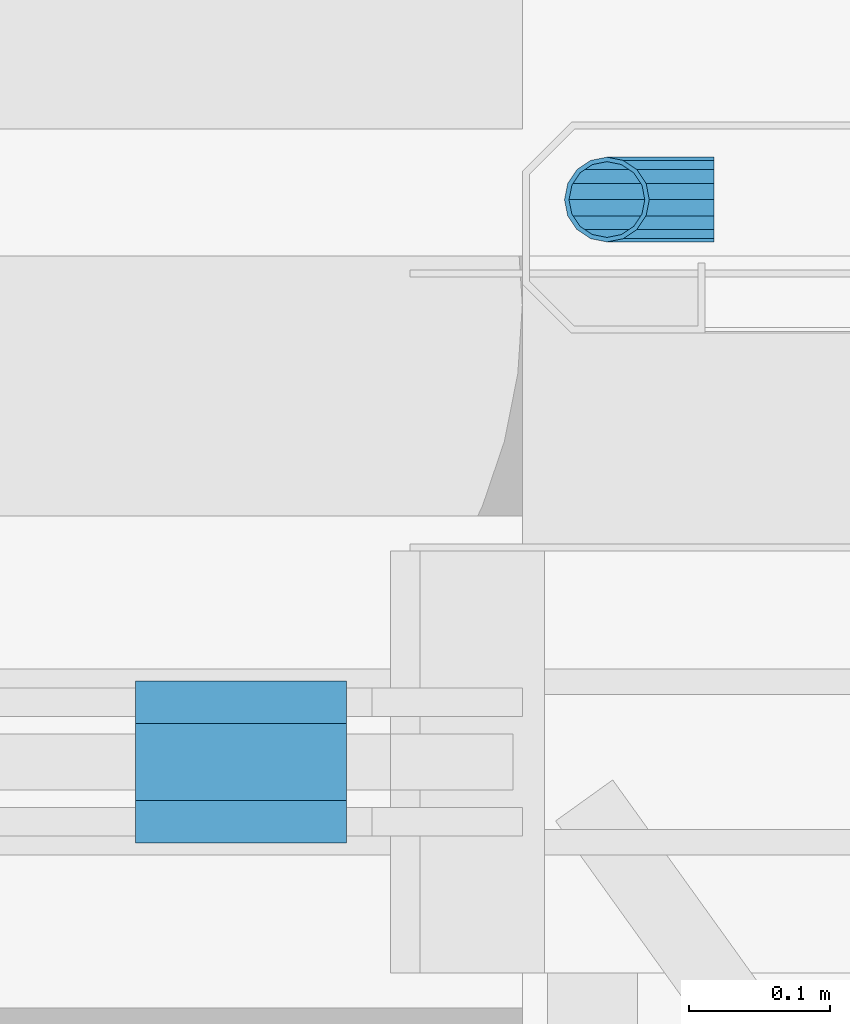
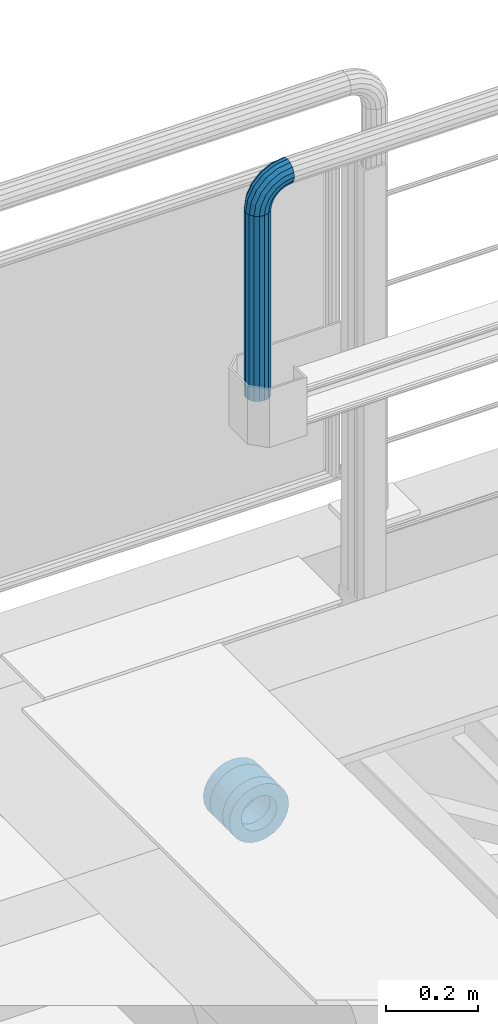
# One storey, part 23 of 31: 5 beams.
"""IFC2X3 building model written with IfcOpenShell, lengths in millimetres."""

from ifc_helpers import new_model, si_unit, frame, origin_with_axes, place, context, subcontext, project, spatial, faceted_brep, material, type_object, element, save


model = new_model("IFC2X3")

# Units and contexts
model_context = context("Model", 3, precision=1e-05, world=origin_with_axes())
body_context = subcontext(model_context, "Body", "Model", "MODEL_VIEW")
ifc_project = project(units=[si_unit("LENGTHUNIT", "METRE", prefix="MILLI"), si_unit("AREAUNIT", "SQUARE_METRE"), si_unit("VOLUMEUNIT", "CUBIC_METRE"), si_unit("MASSUNIT", "GRAM", prefix="KILO"), si_unit("TIMEUNIT", "SECOND"), si_unit("PLANEANGLEUNIT", "RADIAN"), si_unit("SOLIDANGLEUNIT", "STERADIAN"), si_unit("THERMODYNAMICTEMPERATUREUNIT", "DEGREE_CELSIUS"), si_unit("LUMINOUSINTENSITYUNIT", "LUMEN")], contexts=[model_context])

# Site, building, storey
site_placement = place(None, origin_with_axes())
site = spatial("IfcSite", under=ifc_project, at=site_placement, Name="Undefined", CompositionType="ELEMENT")
building_placement = place(site_placement, origin_with_axes())
building = spatial("IfcBuilding", under=site, at=building_placement, Name="Undefined", CompositionType="ELEMENT")
storey_placement = place(building_placement, origin_with_axes())
storey = spatial("IfcBuildingStorey", under=building, at=storey_placement, Name="Undefined", CompositionType="ELEMENT", Elevation=0.0)

# Beams
ifc_material = material(Name="STEEL/S355J2+N")
beam_type_1 = type_object("IfcBeamType", Name="CFCHS60.3*3.2", PredefinedType="NOTDEFINED")
beam_1_placement = place(storey_placement, frame((3160.15, 2700.0, 1093.85), z_axis=(0.0, -1.0, 0.0), x_axis=(0.0, 0.0, -1.0)))
element("IfcBeam", 1, at=beam_1_placement, inside=storey, type_object=beam_type_1, material=ifc_material, Name="REKKVERK", context=body_context, shape_type="Brep", body=[
    faceted_brep([(0.0, -26.95, 0.0), (0.0, -24.898553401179, 10.3133185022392), (493.85, -24.8985534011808, 10.3133185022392), (493.85, -26.9500000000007, 0.0), (0.0, -19.0565277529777, 19.0565277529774), (493.85, -19.0565277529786, 19.0565277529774), (0.0, -10.3133185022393, 24.8985534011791), (493.85, -10.313318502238, 24.8985534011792), (0.0, 0.0, 26.95), (493.85, 0.0, 26.95), (0.0, 10.3133185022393, 24.8985534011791), (493.85, 10.313318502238, 24.8985534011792), (0.0, 19.0565277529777, 19.0565277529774), (493.85, 19.0565277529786, 19.0565277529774), (0.0, 24.898553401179, 10.3133185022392), (493.85, 24.8985534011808, 10.3133185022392), (0.0, 26.95, 0.0), (493.85, 26.9500000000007, 0.0), (0.0, 24.898553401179, -10.3133185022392), (493.85, 24.8985534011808, -10.3133185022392), (0.0, 19.0565277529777, -19.0565277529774), (493.85, 19.0565277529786, -19.0565277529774), (0.0, 10.3133185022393, -24.8985534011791), (493.85, 10.313318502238, -24.8985534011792), (0.0, 0.0, -26.95), (493.85, 0.0, -26.95), (0.0, -10.3133185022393, -24.8985534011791), (493.85, -10.313318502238, -24.8985534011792), (0.0, -19.0565277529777, -19.0565277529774), (493.85, -19.0565277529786, -19.0565277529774), (0.0, -24.898553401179, -10.3133185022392), (493.85, -24.8985534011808, -10.3133185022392), (0.0, -30.15, 0.0), (0.0, -27.8549679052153, -11.5379054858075), (493.85, -27.8549679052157, -11.5379054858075), (493.85, -30.1500000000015, 0.0), (0.0, -21.3192694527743, -21.3192694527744), (493.85, -21.3192694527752, -21.3192694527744), (0.0, -11.5379054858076, -27.8549679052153), (493.85, -11.5379054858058, -27.8549679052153), (0.0, 0.0, -30.15), (493.85, 0.0, -30.15), (0.0, 11.5379054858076, -27.8549679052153), (493.85, 11.5379054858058, -27.8549679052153), (0.0, 21.3192694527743, -21.3192694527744), (493.85, 21.3192694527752, -21.3192694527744), (0.0, 27.8549679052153, -11.5379054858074), (493.85, 27.8549679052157, -11.5379054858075), (0.0, 30.15, 0.0), (493.85, 30.1500000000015, 0.0), (0.0, 27.8549679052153, 11.5379054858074), (493.85, 27.8549679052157, 11.5379054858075), (0.0, 21.3192694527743, 21.3192694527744), (493.85, 21.3192694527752, 21.3192694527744), (0.0, 11.5379054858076, 27.8549679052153), (493.85, 11.5379054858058, 27.8549679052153), (0.0, 0.0, 30.15), (493.85, 0.0, 30.15), (0.0, -11.5379054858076, 27.8549679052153), (493.85, -11.5379054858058, 27.8549679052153), (0.0, -21.3192694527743, 21.3192694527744), (493.85, -21.3192694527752, 21.3192694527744), (0.0, -27.8549679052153, 11.5379054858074), (493.85, -27.8549679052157, 11.5379054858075)], [[[0, 1, 2, 3]], [[1, 4, 5, 2]], [[4, 6, 7, 5]], [[6, 8, 9, 7]], [[8, 10, 11, 9]], [[10, 12, 13, 11]], [[12, 14, 15, 13]], [[14, 16, 17, 15]], [[16, 18, 19, 17]], [[18, 20, 21, 19]], [[20, 22, 23, 21]], [[22, 24, 25, 23]], [[24, 26, 27, 25]], [[26, 28, 29, 27]], [[28, 30, 31, 29]], [[30, 0, 3, 31]], [[32, 33, 34, 35]], [[33, 36, 37, 34]], [[36, 38, 39, 37]], [[38, 40, 41, 39]], [[40, 42, 43, 41]], [[42, 44, 45, 43]], [[44, 46, 47, 45]], [[46, 48, 49, 47]], [[48, 50, 51, 49]], [[50, 52, 53, 51]], [[52, 54, 55, 53]], [[54, 56, 57, 55]], [[56, 58, 59, 57]], [[58, 60, 61, 59]], [[60, 62, 63, 61]], [[62, 32, 35, 63]], [[37, 39, 41, 43, 45, 47, 49, 51, 53, 55, 57, 59, 61, 63, 35, 34], [5, 7, 9, 11, 13, 15, 17, 19, 21, 23, 25, 27, 29, 31, 3, 2]], [[62, 60, 58, 56, 54, 52, 50, 48, 46, 44, 42, 40, 38, 36, 33, 32], [30, 28, 26, 24, 22, 20, 18, 16, 14, 12, 10, 8, 6, 4, 1, 0]]]),
])
beam_2_placement = place(storey_placement, frame((3236.15, 2700.0, 1169.85), z_axis=(-1.0, 0.0, 0.0), x_axis=(0.0, 0.0, -1.0)))
element("IfcBeam", 2, at=beam_2_placement, inside=storey, type_object=beam_type_1, material=ifc_material, Name="REKKVERK", context=body_context, shape_type="Brep", body=[
    faceted_brep([(11.5379054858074, -27.8549679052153, 0.0), (21.3192694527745, -21.3192694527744, 0.0), (23.9955348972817, -21.3192694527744, 16.8972750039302), (14.6929049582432, -27.8549679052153, 19.9198826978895), (31.7623597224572, -21.3192694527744, 32.1405270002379), (23.8490700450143, -27.8549679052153, 37.8898684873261), (43.8594729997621, -21.3192694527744, 44.2376402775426), (38.1101315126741, -27.8549679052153, 52.1509299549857), (59.10272499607, -21.3192694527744, 52.0044651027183), (56.0801173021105, -27.8549679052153, 61.3070950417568), (47.7010601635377, -11.5379054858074, 38.9501491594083), (61.1223668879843, -11.5379054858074, 45.7886465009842), (37.0498508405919, -11.5379054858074, 28.2989398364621), (30.2113534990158, -11.5379054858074, 14.8776331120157), (27.8549679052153, -11.5379054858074, 0.0), (30.1500000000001, 0.0, 0.0), (32.3940587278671, 0.0, 14.1684291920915), (38.9065708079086, 0.0, 26.9499538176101), (49.0500461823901, 0.0, 37.0934291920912), (61.8315708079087, 0.0, 43.6059412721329), (47.7010601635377, 11.5379054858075, 38.9501491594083), (61.1223668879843, 11.5379054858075, 45.7886465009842), (37.0498508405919, 11.5379054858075, 28.2989398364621), (30.2113534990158, 11.5379054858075, 14.8776331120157), (27.8549679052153, 11.5379054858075, 0.0), (21.3192694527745, 21.3192694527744, 0.0), (23.9955348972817, 21.3192694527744, 16.8972750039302), (31.7623597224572, 21.3192694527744, 32.1405270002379), (43.8594729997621, 21.3192694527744, 44.2376402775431), (59.10272499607, 21.3192694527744, 52.0044651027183), (38.1101315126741, 27.8549679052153, 52.1509299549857), (56.0801173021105, 27.8549679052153, 61.3070950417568), (23.8490700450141, 27.8549679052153, 37.8898684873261), (14.6929049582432, 27.8549679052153, 19.9198826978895), (11.5379054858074, 27.8549679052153, 0.0), (0.0, 30.15, 0.0), (3.71970476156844, 30.15, 23.485291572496), (14.514708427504, 30.15, 44.6716791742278), (31.3283208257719, 30.15, 61.485291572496), (52.514708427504, 30.15, 72.2802952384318), (24.54651013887, 27.8549679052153, 70.8196531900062), (48.9492995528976, 27.8549679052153, 83.2534954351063), (5.18034680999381, 27.8549679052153, 51.45348986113), (-7.25349543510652, 27.8549679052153, 27.0507004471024), (-11.5379054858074, 27.8549679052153, 0.0), (-21.3192694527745, 21.3192694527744, 0.0), (-16.556125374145, 21.3192694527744, 30.0733081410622), (-2.73294286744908, 21.3192694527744, 57.2028313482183), (18.7971686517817, 21.3192694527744, 78.7329428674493), (45.9266918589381, 21.3192694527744, 92.5561253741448), (14.9555814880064, 11.5379054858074, 84.0204339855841), (43.9070499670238, 11.5379054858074, 98.7719439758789), (-8.02043398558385, 11.5379054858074, 61.0444185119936), (-22.7719439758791, 11.5379054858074, 32.0929500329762), (-27.8549679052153, 11.5379054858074, 0.0), (-30.1500000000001, 0.0, 0.0), (-24.9546492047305, 0.0, 32.8021539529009), (-9.8771539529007, 0.0, 62.3934045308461), (13.6065954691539, 0.0, 85.8771539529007), (43.1978460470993, 0.0, 100.954649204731), (14.9555814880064, -11.5379054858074, 84.0204339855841), (43.9070499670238, -11.5379054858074, 98.7719439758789), (-8.02043398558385, -11.5379054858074, 61.0444185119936), (-22.7719439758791, -11.5379054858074, 32.0929500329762), (-27.8549679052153, -11.5379054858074, 0.0), (-21.3192694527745, -21.3192694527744, 0.0), (-16.556125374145, -21.3192694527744, 30.0733081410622), (-2.73294286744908, -21.3192694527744, 57.2028313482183), (18.7971686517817, -21.3192694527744, 78.7329428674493), (45.9266918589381, -21.3192694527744, 92.5561253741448), (24.54651013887, -27.8549679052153, 70.8196531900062), (48.9492995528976, -27.8549679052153, 83.2534954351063), (5.18034680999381, -27.8549679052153, 51.45348986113), (-7.25349543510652, -27.8549679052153, 27.0507004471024), (-11.5379054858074, -27.8549679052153, 0.0), (0.0, -30.15, 0.0), (3.71970476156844, -30.15, 23.485291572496), (14.514708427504, -30.15, 44.6716791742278), (31.3283208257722, -30.15, 61.485291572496), (52.514708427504, -30.15, 72.2802952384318), (76.0, -30.15, 76.0), (76.0, -27.8549679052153, 87.5379054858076), (76.0, -21.3192694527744, 97.3192694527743), (76.0, -11.5379054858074, 103.854967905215), (76.0, 0.0, 106.15), (76.0, 11.5379054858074, 103.854967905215), (76.0, 21.3192694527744, 97.3192694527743), (76.0, 27.8549679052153, 87.5379054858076), (76.0, 30.15, 76.0), (76.0, 27.8549679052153, 64.4620945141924), (76.0, 21.3192694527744, 54.6807305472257), (76.0, 11.5379054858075, 48.1450320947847), (76.0, 0.0, 45.8499999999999), (76.0, -11.5379054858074, 48.1450320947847), (76.0, -21.3192694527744, 54.6807305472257), (76.0, -27.8549679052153, 64.4620945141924), (10.3133185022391, -24.8985534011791, 0.0), (19.0565277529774, -19.0565277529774, 0.0), (24.8985534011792, -10.3133185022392, 0.0), (26.95, 0.0, 0.0), (24.8985534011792, 10.3133185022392, 0.0), (19.0565277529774, 19.0565277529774, 0.0), (10.3133185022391, 24.8985534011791, 0.0), (0.0, 26.95, 0.0), (-10.3133185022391, 24.8985534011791, 0.0), (-19.0565277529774, 19.0565277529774, 0.0), (-24.8985534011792, 10.3133185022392, 0.0), (-26.95, 0.0, 0.0), (-24.8985534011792, -10.3133185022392, 0.0), (-19.0565277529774, -19.0565277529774, 0.0), (-10.3133185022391, -24.8985534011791, 0.0), (0.0, -26.95, 0.0), (3.71970476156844, -26.95, 23.485291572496), (13.5282535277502, -24.8985534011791, 20.2983008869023), (21.8435396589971, -19.0565277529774, 17.5965006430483), (27.3996362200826, -10.3133185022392, 15.7912154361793), (29.3506778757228, 0.0, 15.1572835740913), (27.3996362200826, 10.3133185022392, 15.7912154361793), (21.8435396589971, 19.0565277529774, 17.5965006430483), (13.5282535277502, 24.8985534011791, 20.2983008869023), (3.71970476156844, 26.95, 23.485291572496), (-6.08884400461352, 24.8985534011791, 26.6722822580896), (-14.4041301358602, 19.0565277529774, 29.374082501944), (-19.9602266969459, 10.3133185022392, 31.1793677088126), (-21.9112683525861, 0.0, 31.8132995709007), (-19.9602266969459, -10.3133185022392, 31.1793677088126), (-14.4041301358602, -19.0565277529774, 29.374082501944), (-6.08884400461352, -24.8985534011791, 26.6722822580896), (6.17105849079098, -24.8985534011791, 50.7336956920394), (14.514708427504, -26.95, 44.6716791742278), (22.8583583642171, -24.8985534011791, 38.6096626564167), (29.9317632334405, -19.0565277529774, 33.4705332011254), (34.6580612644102, -10.3133185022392, 30.0366766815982), (36.3177164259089, 0.0, 28.8308666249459), (34.6580612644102, 10.3133185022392, 30.0366766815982), (29.9317632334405, 19.0565277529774, 33.4705332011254), (22.8583583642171, 24.8985534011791, 38.6096626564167), (14.514708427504, 26.95, 44.6716791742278), (6.17105849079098, 24.8985534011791, 50.7336956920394), (-0.90234637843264, 19.0565277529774, 55.8728251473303), (-5.62864440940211, 10.3133185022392, 59.3066816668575), (-7.28829957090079, 0.0, 60.5124917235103), (-5.62864440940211, -10.3133185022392, 59.3066816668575), (-0.90234637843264, -19.0565277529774, 55.8728251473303), (20.1271748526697, -19.0565277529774, 76.9023463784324), (25.2663043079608, -24.8985534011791, 69.828941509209), (31.3283208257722, -26.95, 61.485291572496), (37.3903373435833, -24.8985534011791, 53.1416416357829), (42.5294667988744, -19.0565277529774, 46.0682367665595), (45.9633233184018, -10.3133185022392, 41.3419387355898), (47.1691333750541, 0.0, 39.6822835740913), (45.9633233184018, 10.3133185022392, 41.3419387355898), (42.5294667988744, 19.0565277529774, 46.0682367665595), (37.3903373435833, 24.8985534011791, 53.1416416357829), (31.3283208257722, 26.95, 61.485291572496), (25.2663043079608, 24.8985534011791, 69.828941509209), (20.1271748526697, 19.0565277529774, 76.9023463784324), (16.6933183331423, 10.3133185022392, 81.6286444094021), (15.48750827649, 0.0, 83.288299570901), (16.6933183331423, -10.3133185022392, 81.6286444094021), (44.8206322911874, -10.3133185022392, 95.9602266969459), (46.6259174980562, -19.0565277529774, 90.4041301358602), (49.3277177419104, -24.8985534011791, 82.0888440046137), (52.514708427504, -26.95, 72.2802952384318), (55.7016991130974, -24.8985534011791, 62.4717464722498), (58.4034993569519, -19.0565277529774, 54.1564603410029), (60.2087845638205, -10.3133185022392, 48.6003637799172), (60.8427164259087, 0.0, 46.6493221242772), (60.2087845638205, 10.3133185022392, 48.6003637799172), (58.4034993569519, 19.0565277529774, 54.1564603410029), (55.7016991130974, 24.8985534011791, 62.4717464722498), (52.514708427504, 26.95, 72.2802952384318), (49.3277177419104, 24.8985534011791, 82.0888440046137), (46.6259174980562, 19.0565277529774, 90.4041301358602), (44.8206322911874, 10.3133185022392, 95.9602266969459), (44.1867004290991, 0.0, 97.9112683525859), (76.0, 0.0, 102.95), (76.0, -10.3133185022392, 100.898553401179), (76.0, -19.0565277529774, 95.0565277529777), (76.0, -24.8985534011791, 86.3133185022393), (76.0, -26.95, 76.0), (76.0, -24.8985534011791, 65.6866814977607), (76.0, -19.0565277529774, 56.9434722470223), (76.0, -10.3133185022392, 51.101446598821), (76.0, 0.0, 49.0500000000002), (76.0, 10.3133185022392, 51.101446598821), (76.0, 19.0565277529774, 56.9434722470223), (76.0, 24.8985534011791, 65.6866814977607), (76.0, 26.95, 76.0), (76.0, 24.8985534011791, 86.3133185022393), (76.0, 19.0565277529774, 95.0565277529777), (76.0, 10.3133185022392, 100.898553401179)], [[[0, 1, 2, 3]], [[3, 2, 4, 5]], [[5, 4, 6, 7]], [[7, 6, 8, 9]], [[6, 10, 11, 8]], [[4, 12, 10, 6]], [[2, 13, 12, 4]], [[1, 14, 13, 2]], [[14, 15, 16, 13]], [[13, 16, 17, 12]], [[12, 17, 18, 10]], [[10, 18, 19, 11]], [[18, 20, 21, 19]], [[17, 22, 20, 18]], [[16, 23, 22, 17]], [[15, 24, 23, 16]], [[24, 25, 26, 23]], [[23, 26, 27, 22]], [[22, 27, 28, 20]], [[20, 28, 29, 21]], [[28, 30, 31, 29]], [[27, 32, 30, 28]], [[26, 33, 32, 27]], [[25, 34, 33, 26]], [[34, 35, 36, 33]], [[33, 36, 37, 32]], [[32, 37, 38, 30]], [[30, 38, 39, 31]], [[38, 40, 41, 39]], [[37, 42, 40, 38]], [[36, 43, 42, 37]], [[35, 44, 43, 36]], [[44, 45, 46, 43]], [[43, 46, 47, 42]], [[42, 47, 48, 40]], [[40, 48, 49, 41]], [[48, 50, 51, 49]], [[47, 52, 50, 48]], [[46, 53, 52, 47]], [[45, 54, 53, 46]], [[54, 55, 56, 53]], [[53, 56, 57, 52]], [[52, 57, 58, 50]], [[50, 58, 59, 51]], [[58, 60, 61, 59]], [[57, 62, 60, 58]], [[56, 63, 62, 57]], [[55, 64, 63, 56]], [[64, 65, 66, 63]], [[63, 66, 67, 62]], [[62, 67, 68, 60]], [[60, 68, 69, 61]], [[68, 70, 71, 69]], [[67, 72, 70, 68]], [[66, 73, 72, 67]], [[65, 74, 73, 66]], [[74, 75, 76, 73]], [[73, 76, 77, 72]], [[72, 77, 78, 70]], [[70, 78, 79, 71]], [[71, 79, 80, 81]], [[69, 71, 81, 82]], [[61, 69, 82, 83]], [[59, 61, 83, 84]], [[51, 59, 84, 85]], [[49, 51, 85, 86]], [[41, 49, 86, 87]], [[39, 41, 87, 88]], [[31, 39, 88, 89]], [[29, 31, 89, 90]], [[21, 29, 90, 91]], [[19, 21, 91, 92]], [[11, 19, 92, 93]], [[8, 11, 93, 94]], [[9, 8, 94, 95]], [[79, 9, 95, 80]], [[78, 7, 9, 79]], [[77, 5, 7, 78]], [[76, 3, 5, 77]], [[75, 0, 3, 76]], [[74, 65, 64, 55, 54, 45, 44, 35, 34, 25, 24, 15, 14, 1, 0, 75], [96, 97, 98, 99, 100, 101, 102, 103, 104, 105, 106, 107, 108, 109, 110, 111]], [[96, 111, 112, 113]], [[97, 96, 113, 114]], [[98, 97, 114, 115]], [[99, 98, 115, 116]], [[100, 99, 116, 117]], [[101, 100, 117, 118]], [[102, 101, 118, 119]], [[103, 102, 119, 120]], [[104, 103, 120, 121]], [[105, 104, 121, 122]], [[106, 105, 122, 123]], [[107, 106, 123, 124]], [[108, 107, 124, 125]], [[109, 108, 125, 126]], [[110, 109, 126, 127]], [[111, 110, 127, 112]], [[112, 127, 128, 129]], [[113, 112, 129, 130]], [[114, 113, 130, 131]], [[115, 114, 131, 132]], [[116, 115, 132, 133]], [[117, 116, 133, 134]], [[118, 117, 134, 135]], [[119, 118, 135, 136]], [[120, 119, 136, 137]], [[121, 120, 137, 138]], [[122, 121, 138, 139]], [[123, 122, 139, 140]], [[124, 123, 140, 141]], [[125, 124, 141, 142]], [[126, 125, 142, 143]], [[127, 126, 143, 128]], [[128, 143, 144, 145]], [[129, 128, 145, 146]], [[130, 129, 146, 147]], [[131, 130, 147, 148]], [[132, 131, 148, 149]], [[133, 132, 149, 150]], [[134, 133, 150, 151]], [[135, 134, 151, 152]], [[136, 135, 152, 153]], [[137, 136, 153, 154]], [[138, 137, 154, 155]], [[139, 138, 155, 156]], [[140, 139, 156, 157]], [[141, 140, 157, 158]], [[142, 141, 158, 159]], [[143, 142, 159, 144]], [[144, 159, 160, 161]], [[145, 144, 161, 162]], [[146, 145, 162, 163]], [[147, 146, 163, 164]], [[148, 147, 164, 165]], [[149, 148, 165, 166]], [[150, 149, 166, 167]], [[151, 150, 167, 168]], [[152, 151, 168, 169]], [[153, 152, 169, 170]], [[154, 153, 170, 171]], [[155, 154, 171, 172]], [[156, 155, 172, 173]], [[157, 156, 173, 174]], [[158, 157, 174, 175]], [[159, 158, 175, 160]], [[160, 175, 176, 177]], [[161, 160, 177, 178]], [[162, 161, 178, 179]], [[163, 162, 179, 180]], [[164, 163, 180, 181]], [[165, 164, 181, 182]], [[166, 165, 182, 183]], [[167, 166, 183, 184]], [[168, 167, 184, 185]], [[169, 168, 185, 186]], [[170, 169, 186, 187]], [[171, 170, 187, 188]], [[172, 171, 188, 189]], [[173, 172, 189, 190]], [[174, 173, 190, 191]], [[175, 174, 191, 176]], [[82, 81, 80, 95, 94, 93, 92, 91, 90, 89, 88, 87, 86, 85, 84, 83], [190, 189, 188, 187, 186, 185, 184, 183, 182, 181, 180, 179, 178, 177, 176, 191]]]),
])
beam_type_2 = type_object("IfcBeamType", Name="O150*30", PredefinedType="NOTDEFINED")
beam_3_placement = place(storey_placement, frame((2900.0, 2327.5, -150.0), z_axis=(0.0, 0.0, -1.0), x_axis=(0.0, 1.0, 0.0)))
element("IfcBeam", 3, at=beam_3_placement, inside=storey, type_object=beam_type_2, material=ifc_material, Name="INNFESTING", context=body_context, shape_type="Brep", body=[
    faceted_brep([(0.0, -45.0, 0.0), (0.0, -43.4666621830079, 11.6468570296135), (30.0, -43.4666621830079, 11.6468570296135), (30.0, -45.0, 0.0), (0.0, -38.9711431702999, 22.5), (30.0, -38.9711431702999, 22.5), (0.0, -31.8198051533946, 31.8198051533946), (30.0, -31.8198051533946, 31.8198051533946), (0.0, -22.5, 38.9711431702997), (30.0, -22.5, 38.9711431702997), (0.0, -11.6468570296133, 43.4666621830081), (30.0, -11.6468570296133, 43.4666621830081), (0.0, 0.0, 45.0), (30.0, 0.0, 45.0), (0.0, 11.6468570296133, 43.4666621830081), (30.0, 11.6468570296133, 43.4666621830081), (0.0, 22.5, 38.9711431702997), (30.0, 22.5, 38.9711431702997), (0.0, 31.8198051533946, 31.8198051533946), (30.0, 31.8198051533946, 31.8198051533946), (0.0, 38.9711431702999, 22.5), (30.0, 38.9711431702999, 22.5), (0.0, 43.4666621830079, 11.6468570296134), (30.0, 43.4666621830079, 11.6468570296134), (0.0, 45.0, 0.0), (30.0, 45.0, 0.0), (0.0, 43.4666621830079, -11.6468570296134), (30.0, 43.4666621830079, -11.6468570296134), (0.0, 38.9711431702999, -22.5), (30.0, 38.9711431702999, -22.5), (0.0, 31.8198051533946, -31.8198051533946), (30.0, 31.8198051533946, -31.8198051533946), (0.0, 22.5, -38.9711431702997), (30.0, 22.5, -38.9711431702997), (0.0, 11.6468570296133, -43.4666621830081), (30.0, 11.6468570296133, -43.4666621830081), (0.0, 0.0, -45.0), (30.0, 0.0, -45.0), (0.0, -11.6468570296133, -43.4666621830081), (30.0, -11.6468570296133, -43.4666621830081), (0.0, -22.5, -38.9711431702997), (30.0, -22.5, -38.9711431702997), (0.0, -31.8198051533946, -31.8198051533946), (30.0, -31.8198051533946, -31.8198051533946), (0.0, -38.9711431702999, -22.5), (30.0, -38.9711431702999, -22.5), (0.0, -43.4666621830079, -11.6468570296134), (30.0, -43.4666621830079, -11.6468570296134), (0.0, -75.0, 0.0), (0.0, -72.4444369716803, -19.4114283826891), (30.0, -72.4444369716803, -19.4114283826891), (30.0, -75.0, 0.0), (0.0, -64.9519052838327, -37.5), (30.0, -64.9519052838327, -37.5), (0.0, -53.0330085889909, -53.0330085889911), (30.0, -53.0330085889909, -53.0330085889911), (0.0, -37.5, -64.9519052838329), (30.0, -37.5, -64.9519052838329), (0.0, -19.4114283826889, -72.4444369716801), (30.0, -19.4114283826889, -72.4444369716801), (0.0, 0.0, -75.0), (30.0, 0.0, -75.0), (0.0, 19.4114283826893, -72.4444369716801), (30.0, 19.4114283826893, -72.4444369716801), (0.0, 37.5, -64.9519052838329), (30.0, 37.5, -64.9519052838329), (0.0, 53.0330085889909, -53.033008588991), (30.0, 53.0330085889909, -53.033008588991), (0.0, 64.9519052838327, -37.5), (30.0, 64.9519052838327, -37.5), (0.0, 72.4444369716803, -19.411428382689), (30.0, 72.4444369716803, -19.411428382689), (0.0, 75.0, 0.0), (30.0, 75.0, 0.0), (0.0, 72.4444369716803, 19.4114283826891), (30.0, 72.4444369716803, 19.4114283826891), (0.0, 64.9519052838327, 37.5), (30.0, 64.9519052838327, 37.5), (0.0, 53.0330085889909, 53.0330085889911), (30.0, 53.0330085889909, 53.0330085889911), (0.0, 37.5, 64.9519052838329), (30.0, 37.5, 64.9519052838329), (0.0, 19.4114283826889, 72.4444369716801), (30.0, 19.4114283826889, 72.4444369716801), (0.0, 0.0, 75.0), (30.0, 0.0, 75.0), (0.0, -19.4114283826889, 72.4444369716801), (30.0, -19.4114283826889, 72.4444369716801), (0.0, -37.5, 64.9519052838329), (30.0, -37.5, 64.9519052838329), (0.0, -53.0330085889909, 53.0330085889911), (30.0, -53.0330085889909, 53.0330085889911), (0.0, -64.9519052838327, 37.5), (30.0, -64.9519052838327, 37.5), (0.0, -72.4444369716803, 19.4114283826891), (30.0, -72.4444369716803, 19.4114283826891)], [[[0, 1, 2, 3]], [[1, 4, 5, 2]], [[4, 6, 7, 5]], [[6, 8, 9, 7]], [[8, 10, 11, 9]], [[10, 12, 13, 11]], [[12, 14, 15, 13]], [[14, 16, 17, 15]], [[16, 18, 19, 17]], [[18, 20, 21, 19]], [[20, 22, 23, 21]], [[22, 24, 25, 23]], [[24, 26, 27, 25]], [[26, 28, 29, 27]], [[28, 30, 31, 29]], [[30, 32, 33, 31]], [[32, 34, 35, 33]], [[34, 36, 37, 35]], [[36, 38, 39, 37]], [[38, 40, 41, 39]], [[40, 42, 43, 41]], [[42, 44, 45, 43]], [[44, 46, 47, 45]], [[46, 0, 3, 47]], [[48, 49, 50, 51]], [[49, 52, 53, 50]], [[52, 54, 55, 53]], [[54, 56, 57, 55]], [[56, 58, 59, 57]], [[58, 60, 61, 59]], [[60, 62, 63, 61]], [[62, 64, 65, 63]], [[64, 66, 67, 65]], [[66, 68, 69, 67]], [[68, 70, 71, 69]], [[70, 72, 73, 71]], [[72, 74, 75, 73]], [[74, 76, 77, 75]], [[76, 78, 79, 77]], [[78, 80, 81, 79]], [[80, 82, 83, 81]], [[82, 84, 85, 83]], [[84, 86, 87, 85]], [[86, 88, 89, 87]], [[88, 90, 91, 89]], [[90, 92, 93, 91]], [[92, 94, 95, 93]], [[94, 48, 51, 95]], [[53, 55, 57, 59, 61, 63, 65, 67, 69, 71, 73, 75, 77, 79, 81, 83, 85, 87, 89, 91, 93, 95, 51, 50], [5, 7, 9, 11, 13, 15, 17, 19, 21, 23, 25, 27, 29, 31, 33, 35, 37, 39, 41, 43, 45, 47, 3, 2]], [[94, 92, 90, 88, 86, 84, 82, 80, 78, 76, 74, 72, 70, 68, 66, 64, 62, 60, 58, 56, 54, 52, 49, 48], [46, 44, 42, 40, 38, 36, 34, 32, 30, 28, 26, 24, 22, 20, 18, 16, 14, 12, 10, 8, 6, 4, 1, 0]]]),
])
beam_4_placement = place(storey_placement, frame((2900.0, 2242.5, -150.0), z_axis=(0.0, 0.0, -1.0), x_axis=(0.0, 1.0, 0.0)))
element("IfcBeam", 4, at=beam_4_placement, inside=storey, type_object=beam_type_2, material=ifc_material, Name="INNFESTING", context=body_context, shape_type="Brep", body=[
    faceted_brep([(0.0, -45.0, 0.0), (0.0, -43.4666621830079, 11.6468570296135), (30.0, -43.4666621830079, 11.6468570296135), (30.0, -45.0, 0.0), (0.0, -38.9711431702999, 22.5), (30.0, -38.9711431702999, 22.5), (0.0, -31.8198051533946, 31.8198051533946), (30.0, -31.8198051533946, 31.8198051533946), (0.0, -22.5, 38.9711431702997), (30.0, -22.5, 38.9711431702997), (0.0, -11.6468570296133, 43.4666621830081), (30.0, -11.6468570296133, 43.4666621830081), (0.0, 0.0, 45.0), (30.0, 0.0, 45.0), (0.0, 11.6468570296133, 43.4666621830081), (30.0, 11.6468570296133, 43.4666621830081), (0.0, 22.5, 38.9711431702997), (30.0, 22.5, 38.9711431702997), (0.0, 31.8198051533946, 31.8198051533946), (30.0, 31.8198051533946, 31.8198051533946), (0.0, 38.9711431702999, 22.5), (30.0, 38.9711431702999, 22.5), (0.0, 43.4666621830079, 11.6468570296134), (30.0, 43.4666621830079, 11.6468570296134), (0.0, 45.0, 0.0), (30.0, 45.0, 0.0), (0.0, 43.4666621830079, -11.6468570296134), (30.0, 43.4666621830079, -11.6468570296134), (0.0, 38.9711431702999, -22.5), (30.0, 38.9711431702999, -22.5), (0.0, 31.8198051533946, -31.8198051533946), (30.0, 31.8198051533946, -31.8198051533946), (0.0, 22.5, -38.9711431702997), (30.0, 22.5, -38.9711431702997), (0.0, 11.6468570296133, -43.4666621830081), (30.0, 11.6468570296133, -43.4666621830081), (0.0, 0.0, -45.0), (30.0, 0.0, -45.0), (0.0, -11.6468570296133, -43.4666621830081), (30.0, -11.6468570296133, -43.4666621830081), (0.0, -22.5, -38.9711431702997), (30.0, -22.5, -38.9711431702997), (0.0, -31.8198051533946, -31.8198051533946), (30.0, -31.8198051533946, -31.8198051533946), (0.0, -38.9711431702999, -22.5), (30.0, -38.9711431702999, -22.5), (0.0, -43.4666621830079, -11.6468570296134), (30.0, -43.4666621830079, -11.6468570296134), (0.0, -75.0, 0.0), (0.0, -72.4444369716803, -19.4114283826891), (30.0, -72.4444369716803, -19.4114283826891), (30.0, -75.0, 0.0), (0.0, -64.9519052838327, -37.5), (30.0, -64.9519052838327, -37.5), (0.0, -53.0330085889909, -53.0330085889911), (30.0, -53.0330085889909, -53.0330085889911), (0.0, -37.5, -64.9519052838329), (30.0, -37.5, -64.9519052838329), (0.0, -19.4114283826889, -72.4444369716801), (30.0, -19.4114283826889, -72.4444369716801), (0.0, 0.0, -75.0), (30.0, 0.0, -75.0), (0.0, 19.4114283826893, -72.4444369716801), (30.0, 19.4114283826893, -72.4444369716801), (0.0, 37.5, -64.9519052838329), (30.0, 37.5, -64.9519052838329), (0.0, 53.0330085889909, -53.033008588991), (30.0, 53.0330085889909, -53.033008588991), (0.0, 64.9519052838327, -37.5), (30.0, 64.9519052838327, -37.5), (0.0, 72.4444369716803, -19.411428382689), (30.0, 72.4444369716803, -19.411428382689), (0.0, 75.0, 0.0), (30.0, 75.0, 0.0), (0.0, 72.4444369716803, 19.4114283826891), (30.0, 72.4444369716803, 19.4114283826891), (0.0, 64.9519052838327, 37.5), (30.0, 64.9519052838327, 37.5), (0.0, 53.0330085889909, 53.0330085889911), (30.0, 53.0330085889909, 53.0330085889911), (0.0, 37.5, 64.9519052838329), (30.0, 37.5, 64.9519052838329), (0.0, 19.4114283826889, 72.4444369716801), (30.0, 19.4114283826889, 72.4444369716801), (0.0, 0.0, 75.0), (30.0, 0.0, 75.0), (0.0, -19.4114283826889, 72.4444369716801), (30.0, -19.4114283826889, 72.4444369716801), (0.0, -37.5, 64.9519052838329), (30.0, -37.5, 64.9519052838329), (0.0, -53.0330085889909, 53.0330085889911), (30.0, -53.0330085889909, 53.0330085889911), (0.0, -64.9519052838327, 37.5), (30.0, -64.9519052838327, 37.5), (0.0, -72.4444369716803, 19.4114283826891), (30.0, -72.4444369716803, 19.4114283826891)], [[[0, 1, 2, 3]], [[1, 4, 5, 2]], [[4, 6, 7, 5]], [[6, 8, 9, 7]], [[8, 10, 11, 9]], [[10, 12, 13, 11]], [[12, 14, 15, 13]], [[14, 16, 17, 15]], [[16, 18, 19, 17]], [[18, 20, 21, 19]], [[20, 22, 23, 21]], [[22, 24, 25, 23]], [[24, 26, 27, 25]], [[26, 28, 29, 27]], [[28, 30, 31, 29]], [[30, 32, 33, 31]], [[32, 34, 35, 33]], [[34, 36, 37, 35]], [[36, 38, 39, 37]], [[38, 40, 41, 39]], [[40, 42, 43, 41]], [[42, 44, 45, 43]], [[44, 46, 47, 45]], [[46, 0, 3, 47]], [[48, 49, 50, 51]], [[49, 52, 53, 50]], [[52, 54, 55, 53]], [[54, 56, 57, 55]], [[56, 58, 59, 57]], [[58, 60, 61, 59]], [[60, 62, 63, 61]], [[62, 64, 65, 63]], [[64, 66, 67, 65]], [[66, 68, 69, 67]], [[68, 70, 71, 69]], [[70, 72, 73, 71]], [[72, 74, 75, 73]], [[74, 76, 77, 75]], [[76, 78, 79, 77]], [[78, 80, 81, 79]], [[80, 82, 83, 81]], [[82, 84, 85, 83]], [[84, 86, 87, 85]], [[86, 88, 89, 87]], [[88, 90, 91, 89]], [[90, 92, 93, 91]], [[92, 94, 95, 93]], [[94, 48, 51, 95]], [[53, 55, 57, 59, 61, 63, 65, 67, 69, 71, 73, 75, 77, 79, 81, 83, 85, 87, 89, 91, 93, 95, 51, 50], [5, 7, 9, 11, 13, 15, 17, 19, 21, 23, 25, 27, 29, 31, 33, 35, 37, 39, 41, 43, 45, 47, 3, 2]], [[94, 92, 90, 88, 86, 84, 82, 80, 78, 76, 74, 72, 70, 68, 66, 64, 62, 60, 58, 56, 54, 52, 49, 48], [46, 44, 42, 40, 38, 36, 34, 32, 30, 28, 26, 24, 22, 20, 18, 16, 14, 12, 10, 8, 6, 4, 1, 0]]]),
])
beam_5_placement = place(storey_placement, frame((2900.0, 2270.0, -150.0), z_axis=(0.0, 0.0, -1.0), x_axis=(0.0, 1.0, 0.0)))
element("IfcBeam", 5, at=beam_5_placement, inside=storey, type_object=beam_type_2, material=ifc_material, Name="STÅLBJELKE", context=body_context, shape_type="Brep", body=[
    faceted_brep([(0.0, -45.0, 0.0), (0.0, -43.4666621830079, 11.6468570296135), (60.0, -43.4666621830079, 11.6468570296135), (60.0, -45.0, 0.0), (0.0, -38.9711431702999, 22.5), (60.0, -38.9711431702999, 22.5), (0.0, -31.8198051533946, 31.8198051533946), (60.0, -31.8198051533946, 31.8198051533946), (0.0, -22.5, 38.9711431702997), (60.0, -22.5, 38.9711431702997), (0.0, -11.6468570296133, 43.4666621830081), (60.0, -11.6468570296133, 43.4666621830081), (0.0, 0.0, 45.0), (60.0, 0.0, 45.0), (0.0, 11.6468570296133, 43.4666621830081), (60.0, 11.6468570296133, 43.4666621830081), (0.0, 22.5, 38.9711431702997), (60.0, 22.5, 38.9711431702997), (0.0, 31.8198051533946, 31.8198051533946), (60.0, 31.8198051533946, 31.8198051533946), (0.0, 38.9711431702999, 22.5), (60.0, 38.9711431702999, 22.5), (0.0, 43.4666621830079, 11.6468570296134), (60.0, 43.4666621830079, 11.6468570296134), (0.0, 45.0, 0.0), (60.0, 45.0, 0.0), (0.0, 43.4666621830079, -11.6468570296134), (60.0, 43.4666621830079, -11.6468570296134), (0.0, 38.9711431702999, -22.5), (60.0, 38.9711431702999, -22.5), (0.0, 31.8198051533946, -31.8198051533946), (60.0, 31.8198051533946, -31.8198051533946), (0.0, 22.5, -38.9711431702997), (60.0, 22.5, -38.9711431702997), (0.0, 11.6468570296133, -43.4666621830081), (60.0, 11.6468570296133, -43.4666621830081), (0.0, 0.0, -45.0), (60.0, 0.0, -45.0), (0.0, -11.6468570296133, -43.4666621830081), (60.0, -11.6468570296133, -43.4666621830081), (0.0, -22.5, -38.9711431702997), (60.0, -22.5, -38.9711431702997), (0.0, -31.8198051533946, -31.8198051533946), (60.0, -31.8198051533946, -31.8198051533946), (0.0, -38.9711431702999, -22.5), (60.0, -38.9711431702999, -22.5), (0.0, -43.4666621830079, -11.6468570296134), (60.0, -43.4666621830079, -11.6468570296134), (0.0, -75.0, 0.0), (0.0, -72.4444369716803, -19.4114283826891), (60.0, -72.4444369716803, -19.4114283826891), (60.0, -75.0, 0.0), (0.0, -64.9519052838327, -37.5), (60.0, -64.9519052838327, -37.5), (0.0, -53.0330085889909, -53.0330085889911), (60.0, -53.0330085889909, -53.0330085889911), (0.0, -37.5, -64.9519052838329), (60.0, -37.5, -64.9519052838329), (0.0, -19.4114283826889, -72.4444369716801), (60.0, -19.4114283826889, -72.4444369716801), (0.0, 0.0, -75.0), (60.0, 0.0, -75.0), (0.0, 19.4114283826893, -72.4444369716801), (60.0, 19.4114283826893, -72.4444369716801), (0.0, 37.5, -64.9519052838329), (60.0, 37.5, -64.9519052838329), (0.0, 53.0330085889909, -53.033008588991), (60.0, 53.0330085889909, -53.033008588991), (0.0, 64.9519052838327, -37.5), (60.0, 64.9519052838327, -37.5), (0.0, 72.4444369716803, -19.411428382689), (60.0, 72.4444369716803, -19.411428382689), (0.0, 75.0, 0.0), (60.0, 75.0, 0.0), (0.0, 72.4444369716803, 19.4114283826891), (60.0, 72.4444369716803, 19.4114283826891), (0.0, 64.9519052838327, 37.5), (60.0, 64.9519052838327, 37.5), (0.0, 53.0330085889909, 53.0330085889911), (60.0, 53.0330085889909, 53.0330085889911), (0.0, 37.5, 64.9519052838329), (60.0, 37.5, 64.9519052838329), (0.0, 19.4114283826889, 72.4444369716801), (60.0, 19.4114283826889, 72.4444369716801), (0.0, 0.0, 75.0), (60.0, 0.0, 75.0), (0.0, -19.4114283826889, 72.4444369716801), (60.0, -19.4114283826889, 72.4444369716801), (0.0, -37.5, 64.9519052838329), (60.0, -37.5, 64.9519052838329), (0.0, -53.0330085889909, 53.0330085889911), (60.0, -53.0330085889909, 53.0330085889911), (0.0, -64.9519052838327, 37.5), (60.0, -64.9519052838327, 37.5), (0.0, -72.4444369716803, 19.4114283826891), (60.0, -72.4444369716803, 19.4114283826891)], [[[0, 1, 2, 3]], [[1, 4, 5, 2]], [[4, 6, 7, 5]], [[6, 8, 9, 7]], [[8, 10, 11, 9]], [[10, 12, 13, 11]], [[12, 14, 15, 13]], [[14, 16, 17, 15]], [[16, 18, 19, 17]], [[18, 20, 21, 19]], [[20, 22, 23, 21]], [[22, 24, 25, 23]], [[24, 26, 27, 25]], [[26, 28, 29, 27]], [[28, 30, 31, 29]], [[30, 32, 33, 31]], [[32, 34, 35, 33]], [[34, 36, 37, 35]], [[36, 38, 39, 37]], [[38, 40, 41, 39]], [[40, 42, 43, 41]], [[42, 44, 45, 43]], [[44, 46, 47, 45]], [[46, 0, 3, 47]], [[48, 49, 50, 51]], [[49, 52, 53, 50]], [[52, 54, 55, 53]], [[54, 56, 57, 55]], [[56, 58, 59, 57]], [[58, 60, 61, 59]], [[60, 62, 63, 61]], [[62, 64, 65, 63]], [[64, 66, 67, 65]], [[66, 68, 69, 67]], [[68, 70, 71, 69]], [[70, 72, 73, 71]], [[72, 74, 75, 73]], [[74, 76, 77, 75]], [[76, 78, 79, 77]], [[78, 80, 81, 79]], [[80, 82, 83, 81]], [[82, 84, 85, 83]], [[84, 86, 87, 85]], [[86, 88, 89, 87]], [[88, 90, 91, 89]], [[90, 92, 93, 91]], [[92, 94, 95, 93]], [[94, 48, 51, 95]], [[53, 55, 57, 59, 61, 63, 65, 67, 69, 71, 73, 75, 77, 79, 81, 83, 85, 87, 89, 91, 93, 95, 51, 50], [5, 7, 9, 11, 13, 15, 17, 19, 21, 23, 25, 27, 29, 31, 33, 35, 37, 39, 41, 43, 45, 47, 3, 2]], [[94, 92, 90, 88, 86, 84, 82, 80, 78, 76, 74, 72, 70, 68, 66, 64, 62, 60, 58, 56, 54, 52, 49, 48], [46, 44, 42, 40, 38, 36, 34, 32, 30, 28, 26, 24, 22, 20, 18, 16, 14, 12, 10, 8, 6, 4, 1, 0]]]),
])

save(model, "model.ifc")
